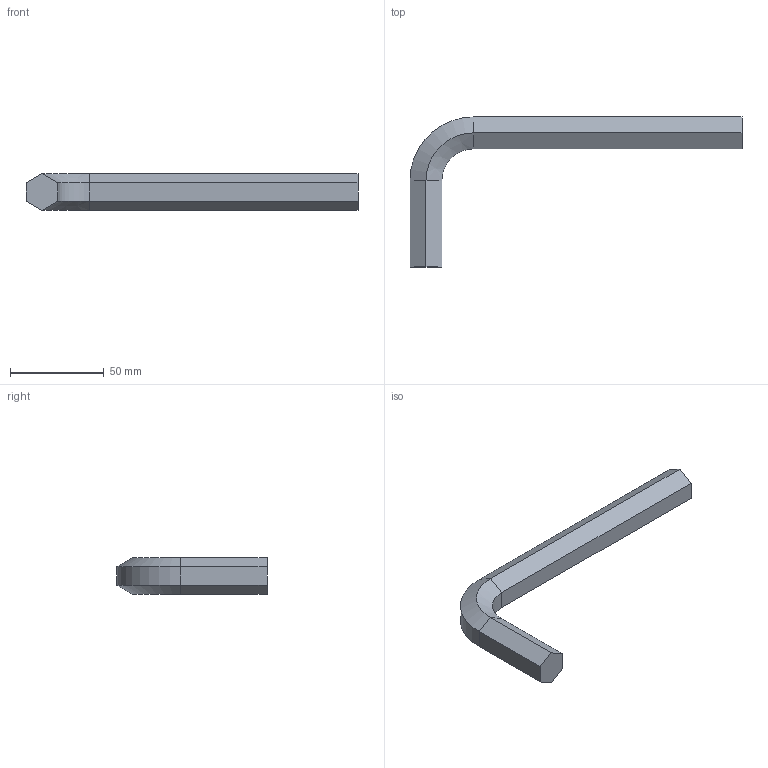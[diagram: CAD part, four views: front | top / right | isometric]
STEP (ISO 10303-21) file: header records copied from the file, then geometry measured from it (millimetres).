
FILE_DESCRIPTION(/* description */ (''),/* implementation_level */ '2;1');
FILE_NAME(/* name */ 'C:\Users\D\Documents\Inventor\各種小物\JIS\02-分解工具\六角棒スパナ2\hk-17.stp',/* time_stamp */ '2022-04-21T13:52:41+09:00',/* author */ ('D'),/* organization */ (''),/* preprocessor_version */ 'ST-DEVELOPER v18',/* originating_system */ 'Autodesk Inventor 2020',/* authorisation */ '');
FILE_SCHEMA (('AUTOMOTIVE_DESIGN { 1 0 10303 214 3 1 1 }'));
Length unit declared in the file: millimetre
Products named in the file (1): hk-0.7
Bounding box: 177 x 80 x 19.63 mm (x, y, z)
Volume: 57328.3 mm3; surface area: 13989.6 mm2
Topology: 1 solids, 1 shells, 20 faces, 42 edges, 24 vertices
Faces by surface type: plane 14, cone 4, cylinder 2
Entity records: 557 total; most frequent: DIRECTION 90, CARTESIAN_POINT 87, ORIENTED_EDGE 84, EDGE_CURVE 42, LINE 36, VECTOR 36, AXIS2_PLACEMENT_3D 27, VERTEX_POINT 24
